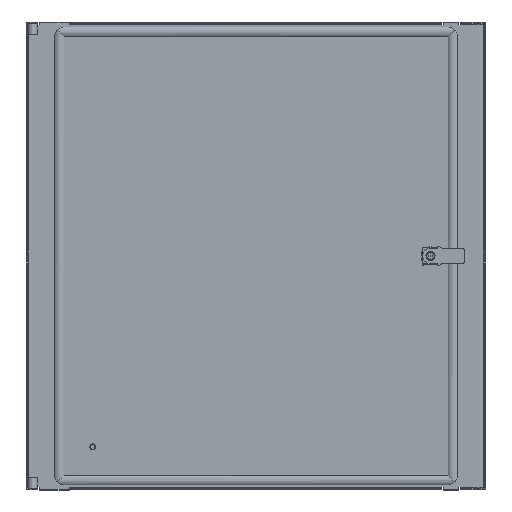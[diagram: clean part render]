
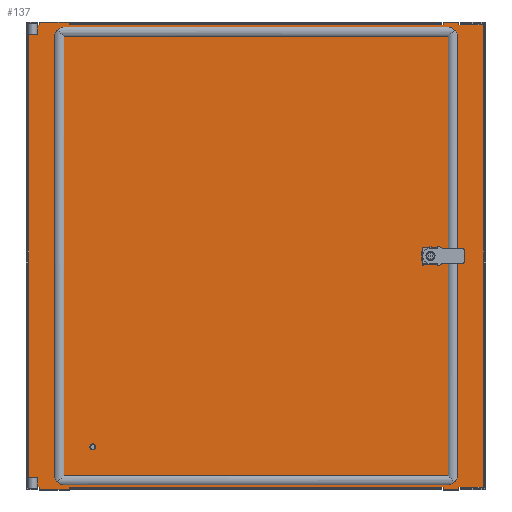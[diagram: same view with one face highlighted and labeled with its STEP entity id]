
A CAD part, top view. The second image highlights one B-rep face of the part: STEP entity #137.
In plain terms, the highlighted planar face has unit normal (0, 0, 1).
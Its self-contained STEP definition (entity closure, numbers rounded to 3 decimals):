
#137=ADVANCED_FACE('',(#702,#704,#706),#708,.T.);
#702=FACE_BOUND('',#703,.T.);
#703=EDGE_LOOP('',(#3435,#3436,#3437,#3438,#3439,#3440,#3441,#3442,#3443,#3444,#3445,
#3446,#3447,#3448,#3449,#3450,#3451,#3452,#3453,#3454,#3455,#3456,#3457,#3458,#3459,
#3460,#3461,#3462));
#704=FACE_BOUND('',#705,.T.);
#705=EDGE_LOOP('',(#3463));
#706=FACE_BOUND('',#707,.T.);
#707=EDGE_LOOP('',(#3464,#3465,#3466,#3467));
#708=PLANE('',#709);
#709=AXIS2_PLACEMENT_3D('',#710,#711,#712);
#710=CARTESIAN_POINT('',(0.,0.,2.));
#711=DIRECTION('',(0.,0.,1.));
#712=DIRECTION('',(1.,0.,0.));
#3435=ORIENTED_EDGE('',*,*,#5245,.F.);
#3436=ORIENTED_EDGE('',*,*,#5225,.F.);
#3437=ORIENTED_EDGE('',*,*,#5152,.F.);
#3438=ORIENTED_EDGE('',*,*,#5246,.F.);
#3439=ORIENTED_EDGE('',*,*,#5247,.F.);
#3440=ORIENTED_EDGE('',*,*,#5248,.F.);
#3441=ORIENTED_EDGE('',*,*,#5249,.F.);
#3442=ORIENTED_EDGE('',*,*,#5221,.F.);
#3443=ORIENTED_EDGE('',*,*,#5156,.F.);
#3444=ORIENTED_EDGE('',*,*,#5250,.F.);
#3445=ORIENTED_EDGE('',*,*,#5251,.F.);
#3446=ORIENTED_EDGE('',*,*,#5252,.F.);
#3447=ORIENTED_EDGE('',*,*,#5253,.F.);
#3448=ORIENTED_EDGE('',*,*,#5254,.F.);
#3449=ORIENTED_EDGE('',*,*,#5255,.F.);
#3450=ORIENTED_EDGE('',*,*,#5176,.F.);
#3451=ORIENTED_EDGE('',*,*,#5149,.F.);
#3452=ORIENTED_EDGE('',*,*,#5256,.T.);
#3453=ORIENTED_EDGE('',*,*,#5257,.T.);
#3454=ORIENTED_EDGE('',*,*,#5258,.T.);
#3455=ORIENTED_EDGE('',*,*,#5143,.F.);
#3456=ORIENTED_EDGE('',*,*,#5174,.F.);
#3457=ORIENTED_EDGE('',*,*,#5141,.F.);
#3458=ORIENTED_EDGE('',*,*,#5259,.T.);
#3459=ORIENTED_EDGE('',*,*,#5260,.T.);
#3460=ORIENTED_EDGE('',*,*,#5261,.T.);
#3461=ORIENTED_EDGE('',*,*,#5135,.F.);
#3462=ORIENTED_EDGE('',*,*,#5182,.F.);
#3463=ORIENTED_EDGE('',*,*,#5133,.F.);
#3464=ORIENTED_EDGE('',*,*,#5262,.F.);
#3465=ORIENTED_EDGE('',*,*,#5263,.F.);
#3466=ORIENTED_EDGE('',*,*,#5264,.F.);
#3467=ORIENTED_EDGE('',*,*,#5265,.F.);
#5133=EDGE_CURVE('',#6052,#6052,#6053,.T.);
#5135=EDGE_CURVE('',#6056,#6057,#6058,.T.);
#5141=EDGE_CURVE('',#6067,#6069,#6070,.T.);
#5143=EDGE_CURVE('',#6072,#6073,#6074,.T.);
#5149=EDGE_CURVE('',#6083,#6085,#6086,.T.);
#5152=EDGE_CURVE('',#6088,#6091,#6092,.T.);
#5156=EDGE_CURVE('',#6096,#6099,#6100,.T.);
#5174=EDGE_CURVE('',#6069,#6072,#6129,.T.);
#5176=EDGE_CURVE('',#6085,#6132,#6133,.T.);
#5182=EDGE_CURVE('',#6141,#6056,#6143,.T.);
#5221=EDGE_CURVE('',#6099,#6206,#6207,.T.);
#5225=EDGE_CURVE('',#6091,#6213,#6214,.T.);
#5245=EDGE_CURVE('',#6213,#6141,#6244,.T.);
#5246=EDGE_CURVE('',#6245,#6088,#6246,.T.);
#5247=EDGE_CURVE('',#6247,#6245,#6248,.T.);
#5248=EDGE_CURVE('',#6249,#6247,#6250,.T.);
#5249=EDGE_CURVE('',#6206,#6249,#6251,.T.);
#5250=EDGE_CURVE('',#6252,#6096,#6253,.T.);
#5251=EDGE_CURVE('',#6254,#6252,#6255,.T.);
#5252=EDGE_CURVE('',#6256,#6254,#6257,.T.);
#5253=EDGE_CURVE('',#6258,#6256,#6259,.T.);
#5254=EDGE_CURVE('',#6260,#6258,#6261,.T.);
#5255=EDGE_CURVE('',#6132,#6260,#6262,.T.);
#5256=EDGE_CURVE('',#6083,#6263,#6264,.T.);
#5257=EDGE_CURVE('',#6263,#6265,#6266,.T.);
#5258=EDGE_CURVE('',#6265,#6073,#6267,.T.);
#5259=EDGE_CURVE('',#6067,#6268,#6269,.T.);
#5260=EDGE_CURVE('',#6268,#6270,#6271,.T.);
#5261=EDGE_CURVE('',#6270,#6057,#6272,.T.);
#5262=EDGE_CURVE('',#6273,#6274,#6275,.T.);
#5263=EDGE_CURVE('',#6276,#6273,#6277,.T.);
#5264=EDGE_CURVE('',#6278,#6276,#6279,.T.);
#5265=EDGE_CURVE('',#6274,#6278,#6280,.T.);
#6052=VERTEX_POINT('',#7567);
#6053=CIRCLE('',#7568,0.5);
#6056=VERTEX_POINT('',#7577);
#6057=VERTEX_POINT('',#7578);
#6058=LINE('',#7579,#7580);
#6067=VERTEX_POINT('',#7598);
#6069=VERTEX_POINT('',#7602);
#6070=LINE('',#7603,#7604);
#6072=VERTEX_POINT('',#7609);
#6073=VERTEX_POINT('',#7610);
#6074=LINE('',#7611,#7612);
#6083=VERTEX_POINT('',#7630);
#6085=VERTEX_POINT('',#7634);
#6086=LINE('',#7635,#7636);
#6088=VERTEX_POINT('',#7641);
#6091=VERTEX_POINT('',#7646);
#6092=LINE('',#7647,#7648);
#6096=VERTEX_POINT('',#7657);
#6099=VERTEX_POINT('',#7662);
#6100=LINE('',#7663,#7664);
#6129=LINE('',#7762,#7763);
#6132=VERTEX_POINT('',#7770);
#6133=LINE('',#7771,#7772);
#6141=VERTEX_POINT('',#7803);
#6143=LINE('',#7820,#7821);
#6206=VERTEX_POINT('',#7979);
#6207=LINE('',#7980,#7981);
#6213=VERTEX_POINT('',#7996);
#6214=LINE('',#7997,#7998);
#6244=LINE('',#8080,#8081);
#6245=VERTEX_POINT('',#8083);
#6246=LINE('',#8084,#8085);
#6247=VERTEX_POINT('',#8087);
#6248=LINE('',#8088,#8089);
#6249=VERTEX_POINT('',#8091);
#6250=LINE('',#8092,#8093);
#6251=LINE('',#8095,#8096);
#6252=VERTEX_POINT('',#8098);
#6253=LINE('',#8099,#8100);
#6254=VERTEX_POINT('',#8102);
#6255=LINE('',#8103,#8104);
#6256=VERTEX_POINT('',#8106);
#6257=LINE('',#8107,#8108);
#6258=VERTEX_POINT('',#8110);
#6259=LINE('',#8111,#8112);
#6260=VERTEX_POINT('',#8114);
#6261=LINE('',#8115,#8116);
#6262=LINE('',#8118,#8119);
#6263=VERTEX_POINT('',#8121);
#6264=LINE('',#8122,#8123);
#6265=VERTEX_POINT('',#8125);
#6266=LINE('',#8126,#8127);
#6267=LINE('',#8129,#8130);
#6268=VERTEX_POINT('',#8132);
#6269=LINE('',#8133,#8134);
#6270=VERTEX_POINT('',#8136);
#6271=LINE('',#8137,#8138);
#6272=LINE('',#8140,#8141);
#6273=VERTEX_POINT('',#8143);
#6274=VERTEX_POINT('',#8144);
#6275=LINE('',#8145,#8146);
#6276=VERTEX_POINT('',#8148);
#6277=LINE('',#8149,#8150);
#6278=VERTEX_POINT('',#8152);
#6279=LINE('',#8153,#8154);
#6280=LINE('',#8156,#8157);
#7567=CARTESIAN_POINT('',(-207.7,-243.5,2.));
#7568=AXIS2_PLACEMENT_3D('',#7569,#7570,#7571);
#7569=CARTESIAN_POINT('',(-208.2,-243.5,2.));
#7570=DIRECTION('',(0.,0.,1.));
#7571=DIRECTION('',(-1.,0.,0.));
#7577=CARTESIAN_POINT('',(260.7,-295.1,2.));
#7578=CARTESIAN_POINT('',(258.7,-295.1,2.));
#7579=CARTESIAN_POINT('',(260.7,-295.1,2.));
#7580=VECTOR('',#7581,1.);
#7581=DIRECTION('',(-1.,0.,0.));
#7598=CARTESIAN_POINT('',(239.2,-295.1,2.));
#7602=CARTESIAN_POINT('',(237.2,-295.1,2.));
#7603=CARTESIAN_POINT('',(239.2,-295.1,2.));
#7604=VECTOR('',#7605,1.);
#7605=DIRECTION('',(-1.,0.,0.));
#7609=CARTESIAN_POINT('',(-236.2,-295.1,2.));
#7610=CARTESIAN_POINT('',(-238.2,-295.1,2.));
#7611=CARTESIAN_POINT('',(-236.2,-295.1,2.));
#7612=VECTOR('',#7613,1.);
#7613=DIRECTION('',(-1.,0.,0.));
#7630=CARTESIAN_POINT('',(-276.2,-295.1,2.));
#7634=CARTESIAN_POINT('',(-278.2,-295.1,2.));
#7635=CARTESIAN_POINT('',(-276.2,-295.1,2.));
#7636=VECTOR('',#7637,1.);
#7637=DIRECTION('',(-1.,0.,0.));
#7641=CARTESIAN_POINT('',(258.7,295.1,2.));
#7646=CARTESIAN_POINT('',(260.7,295.1,2.));
#7647=CARTESIAN_POINT('',(258.7,295.1,2.));
#7648=VECTOR('',#7649,1.);
#7649=DIRECTION('',(1.,0.,0.));
#7657=CARTESIAN_POINT('',(-238.2,295.1,2.));
#7662=CARTESIAN_POINT('',(-236.2,295.1,2.));
#7663=CARTESIAN_POINT('',(-238.2,295.1,2.));
#7664=VECTOR('',#7665,1.);
#7665=DIRECTION('',(1.,0.,0.));
#7762=CARTESIAN_POINT('',(237.2,-295.1,2.));
#7763=VECTOR('',#7764,1.);
#7764=DIRECTION('',(-1.,0.,0.));
#7770=CARTESIAN_POINT('',(-289.8,-295.1,2.));
#7771=CARTESIAN_POINT('',(-278.2,-295.1,2.));
#7772=VECTOR('',#7773,1.);
#7773=DIRECTION('',(-1.,0.,0.));
#7803=CARTESIAN_POINT('',(289.8,-295.1,2.));
#7820=CARTESIAN_POINT('',(289.8,-295.1,2.));
#7821=VECTOR('',#7822,1.);
#7822=DIRECTION('',(-1.,0.,0.));
#7979=CARTESIAN_POINT('',(237.2,295.1,2.));
#7980=CARTESIAN_POINT('',(-236.2,295.1,2.));
#7981=VECTOR('',#7982,1.);
#7982=DIRECTION('',(1.,0.,0.));
#7996=CARTESIAN_POINT('',(289.8,295.1,2.));
#7997=CARTESIAN_POINT('',(260.7,295.1,2.));
#7998=VECTOR('',#7999,1.);
#7999=DIRECTION('',(1.,0.,0.));
#8080=CARTESIAN_POINT('',(289.8,295.1,2.));
#8081=VECTOR('',#8082,1.);
#8082=DIRECTION('',(0.,-1.,0.));
#8083=CARTESIAN_POINT('',(258.7,298.5,2.));
#8084=CARTESIAN_POINT('',(258.7,298.5,2.));
#8085=VECTOR('',#8086,1.);
#8086=DIRECTION('',(0.,-1.,0.));
#8087=CARTESIAN_POINT('',(239.2,298.5,2.));
#8088=CARTESIAN_POINT('',(239.2,298.5,2.));
#8089=VECTOR('',#8090,1.);
#8090=DIRECTION('',(1.,0.,0.));
#8091=CARTESIAN_POINT('',(239.2,295.1,2.));
#8092=CARTESIAN_POINT('',(239.2,295.1,2.));
#8093=VECTOR('',#8094,1.);
#8094=DIRECTION('',(0.,1.,0.));
#8095=CARTESIAN_POINT('',(237.2,295.1,2.));
#8096=VECTOR('',#8097,1.);
#8097=DIRECTION('',(1.,0.,0.));
#8098=CARTESIAN_POINT('',(-238.2,298.5,2.));
#8099=CARTESIAN_POINT('',(-238.2,298.5,2.));
#8100=VECTOR('',#8101,1.);
#8101=DIRECTION('',(0.,-1.,0.));
#8102=CARTESIAN_POINT('',(-276.2,298.5,2.));
#8103=CARTESIAN_POINT('',(-276.2,298.5,2.));
#8104=VECTOR('',#8105,1.);
#8105=DIRECTION('',(1.,0.,0.));
#8106=CARTESIAN_POINT('',(-276.2,295.1,2.));
#8107=CARTESIAN_POINT('',(-276.2,295.1,2.));
#8108=VECTOR('',#8109,1.);
#8109=DIRECTION('',(0.,1.,0.));
#8110=CARTESIAN_POINT('',(-278.2,295.1,2.));
#8111=CARTESIAN_POINT('',(-278.2,295.1,2.));
#8112=VECTOR('',#8113,1.);
#8113=DIRECTION('',(1.,0.,0.));
#8114=CARTESIAN_POINT('',(-289.8,295.1,2.));
#8115=CARTESIAN_POINT('',(-289.8,295.1,2.));
#8116=VECTOR('',#8117,1.);
#8117=DIRECTION('',(1.,0.,0.));
#8118=CARTESIAN_POINT('',(-289.8,-295.1,2.));
#8119=VECTOR('',#8120,1.);
#8120=DIRECTION('',(0.,1.,0.));
#8121=CARTESIAN_POINT('',(-276.2,-298.5,2.));
#8122=CARTESIAN_POINT('',(-276.2,-295.1,2.));
#8123=VECTOR('',#8124,1.);
#8124=DIRECTION('',(0.,-1.,0.));
#8125=CARTESIAN_POINT('',(-238.2,-298.5,2.));
#8126=CARTESIAN_POINT('',(-276.2,-298.5,2.));
#8127=VECTOR('',#8128,1.);
#8128=DIRECTION('',(1.,0.,0.));
#8129=CARTESIAN_POINT('',(-238.2,-298.5,2.));
#8130=VECTOR('',#8131,1.);
#8131=DIRECTION('',(0.,1.,0.));
#8132=CARTESIAN_POINT('',(239.2,-298.5,2.));
#8133=CARTESIAN_POINT('',(239.2,-295.1,2.));
#8134=VECTOR('',#8135,1.);
#8135=DIRECTION('',(0.,-1.,0.));
#8136=CARTESIAN_POINT('',(258.7,-298.5,2.));
#8137=CARTESIAN_POINT('',(239.2,-298.5,2.));
#8138=VECTOR('',#8139,1.);
#8139=DIRECTION('',(1.,0.,0.));
#8140=CARTESIAN_POINT('',(258.7,-298.5,2.));
#8141=VECTOR('',#8142,1.);
#8142=DIRECTION('',(0.,1.,0.));
#8143=CARTESIAN_POINT('',(233.2,-10.6,2.));
#8144=CARTESIAN_POINT('',(233.2,10.6,2.));
#8145=CARTESIAN_POINT('',(233.2,-10.6,2.));
#8146=VECTOR('',#8147,1.);
#8147=DIRECTION('',(0.,1.,0.));
#8148=CARTESIAN_POINT('',(212.,-10.6,2.));
#8149=CARTESIAN_POINT('',(212.,-10.6,2.));
#8150=VECTOR('',#8151,1.);
#8151=DIRECTION('',(1.,0.,0.));
#8152=CARTESIAN_POINT('',(212.,10.6,2.));
#8153=CARTESIAN_POINT('',(212.,10.6,2.));
#8154=VECTOR('',#8155,1.);
#8155=DIRECTION('',(0.,-1.,0.));
#8156=CARTESIAN_POINT('',(233.2,10.6,2.));
#8157=VECTOR('',#8158,1.);
#8158=DIRECTION('',(-1.,0.,0.));
